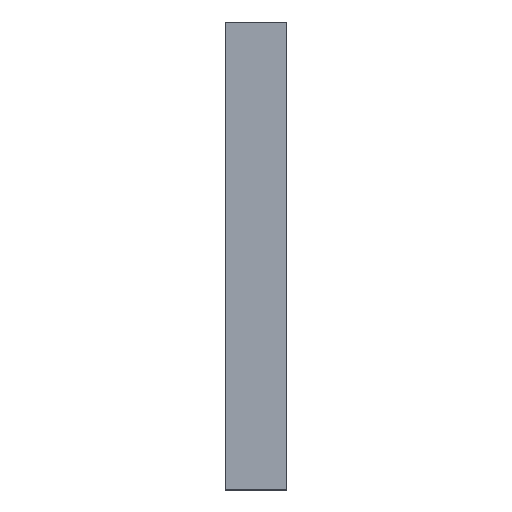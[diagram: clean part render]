
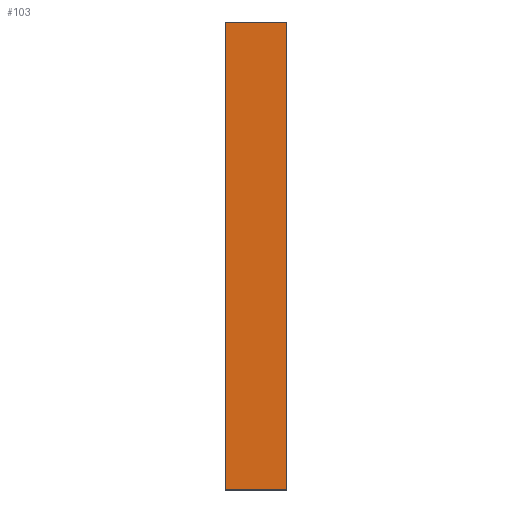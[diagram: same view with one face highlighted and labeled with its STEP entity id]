
A CAD part, top view. The second image highlights one B-rep face of the part: STEP entity #103.
In plain terms, the highlighted planar face has unit normal (0, 0, 1).
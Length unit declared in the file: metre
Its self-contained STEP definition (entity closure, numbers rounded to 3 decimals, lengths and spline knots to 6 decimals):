
#32=ORIENTED_EDGE('',*,*,#46,.T.);
#33=ORIENTED_EDGE('',*,*,#36,.T.);
#34=ORIENTED_EDGE('',*,*,#40,.T.);
#35=ORIENTED_EDGE('',*,*,#43,.T.);
#36=EDGE_CURVE('',#48,#49,#56,.T.);
#40=EDGE_CURVE('',#49,#52,#60,.F.);
#43=EDGE_CURVE('',#52,#54,#63,.F.);
#46=EDGE_CURVE('',#54,#48,#66,.T.);
#48=VERTEX_POINT('',#144);
#49=VERTEX_POINT('',#145);
#52=VERTEX_POINT('',#153);
#54=VERTEX_POINT('',#159);
#56=LINE('',#143,#68);
#60=LINE('',#152,#72);
#63=LINE('',#158,#75);
#66=LINE('',#164,#78);
#68=VECTOR('',#119,1.);
#72=VECTOR('',#125,1.);
#75=VECTOR('',#130,1.);
#78=VECTOR('',#135,1.);
#85=EDGE_LOOP('',(#32,#33,#34,#35));
#91=FACE_BOUND('',#85,.T.);
#97=PLANE('',#114);
#103=ADVANCED_FACE('',(#91),#97,.F.);
#114=AXIS2_PLACEMENT_3D('',#167,#139,#140);
#119=DIRECTION('',(0.,-1.,0.));
#125=DIRECTION('',(-1.,0.,0.));
#130=DIRECTION('',(0.,-1.,0.));
#135=DIRECTION('',(-1.,0.,0.));
#139=DIRECTION('',(0.,0.,-1.));
#140=DIRECTION('',(0.,-1.,0.));
#143=CARTESIAN_POINT('',(-0.041805,0.00381,-0.03));
#144=CARTESIAN_POINT('',(-0.041805,0.004219,-0.03));
#145=CARTESIAN_POINT('',(-0.041805,0.003402,-0.03));
#152=CARTESIAN_POINT('',(-0.041891,0.003402,-0.03));
#153=CARTESIAN_POINT('',(-0.041697,0.003402,-0.03));
#158=CARTESIAN_POINT('',(-0.041697,0.00381,-0.03));
#159=CARTESIAN_POINT('',(-0.041697,0.004219,-0.03));
#164=CARTESIAN_POINT('',(-0.041891,0.004219,-0.03));
#167=CARTESIAN_POINT('',(-0.041891,0.00381,-0.03));
